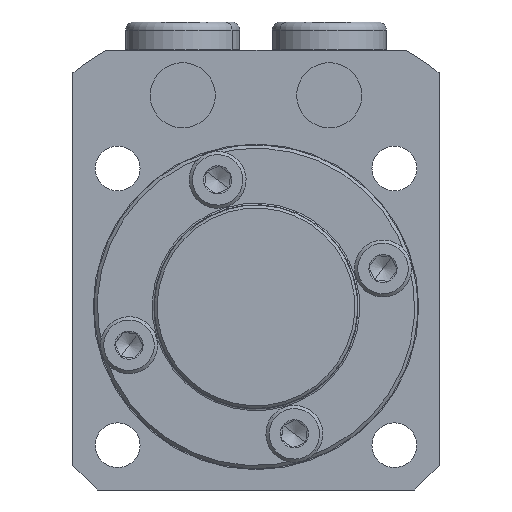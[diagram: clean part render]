
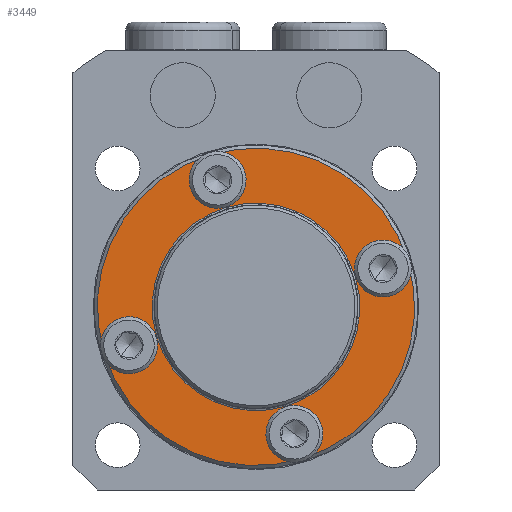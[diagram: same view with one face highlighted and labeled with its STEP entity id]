
A CAD part, front view. The second image highlights one B-rep face of the part: STEP entity #3449.
In plain terms, the highlighted planar face has unit normal (0, -1, 0).
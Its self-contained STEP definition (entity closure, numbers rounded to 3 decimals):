
#391 = FACE_BOUND ( 'NONE', #1669, .T. ) ;
#392 = FACE_BOUND ( 'NONE', #1678, .T. ) ;
#393 = FACE_BOUND ( 'NONE', #1676, .T. ) ;
#394 = FACE_OUTER_BOUND ( 'NONE', #1682, .T. ) ;
#396 = FACE_BOUND ( 'NONE', #1684, .T. ) ;
#397 = CARTESIAN_POINT ( 'NONE',  ( 0., -4., 0. ) ) ;
#398 = FACE_BOUND ( 'NONE', #1683, .T. ) ;
#400 = PLANE ( 'NONE',  #3685 ) ;
#401 = DIRECTION ( 'NONE',  ( 0., 1., 0. ) ) ;
#402 = DIRECTION ( 'NONE',  ( 0., 0., 1. ) ) ;
#897 = CIRCLE ( 'NONE', #899, 2.25 ) ;
#899 = AXIS2_PLACEMENT_3D ( 'NONE', #3015, #3016, #3017 ) ;
#903 = CIRCLE ( 'NONE', #905, 2.25 ) ;
#905 = AXIS2_PLACEMENT_3D ( 'NONE', #3027, #3028, #3029 ) ;
#909 = CIRCLE ( 'NONE', #911, 2.25 ) ;
#911 = AXIS2_PLACEMENT_3D ( 'NONE', #3037, #3038, #3039 ) ;
#917 = CIRCLE ( 'NONE', #923, 12.75 ) ;
#923 = AXIS2_PLACEMENT_3D ( 'NONE', #3057, #3058, #3059 ) ;
#924 = CIRCLE ( 'NONE', #929, 19.5 ) ;
#929 = AXIS2_PLACEMENT_3D ( 'NONE', #3070, #3071, #3072 ) ;
#1669 = EDGE_LOOP ( 'NONE', ( #4447, #4448 ) ) ;
#1676 = EDGE_LOOP ( 'NONE', ( #4449, #4450 ) ) ;
#1678 = EDGE_LOOP ( 'NONE', ( #4439, #4440 ) ) ;
#1682 = EDGE_LOOP ( 'NONE', ( #4441, #4442 ) ) ;
#1683 = EDGE_LOOP ( 'NONE', ( #4445, #4446 ) ) ;
#1684 = EDGE_LOOP ( 'NONE', ( #4443, #4444 ) ) ;
#1866 = CARTESIAN_POINT ( 'NONE',  ( 0., -4., 14.05 ) ) ;
#1879 = CARTESIAN_POINT ( 'NONE',  ( -16.3, -4., -2.25 ) ) ;
#1893 = CARTESIAN_POINT ( 'NONE',  ( 0., -4., -12.75 ) ) ;
#1916 = CARTESIAN_POINT ( 'NONE',  ( 0., -4., -19.5 ) ) ;
#1932 = CARTESIAN_POINT ( 'NONE',  ( 0., -4., 18.55 ) ) ;
#1973 = CARTESIAN_POINT ( 'NONE',  ( 0., -4., -18.55 ) ) ;
#1980 = CARTESIAN_POINT ( 'NONE',  ( -16.3, -4., 2.25 ) ) ;
#1984 = CARTESIAN_POINT ( 'NONE',  ( 0., -4., -14.05 ) ) ;
#1987 = CARTESIAN_POINT ( 'NONE',  ( 16.3, -4., -2.25 ) ) ;
#1988 = CARTESIAN_POINT ( 'NONE',  ( 16.3, -4., 2.25 ) ) ;
#2006 = CARTESIAN_POINT ( 'NONE',  ( 0., -4., 19.5 ) ) ;
#2014 = CARTESIAN_POINT ( 'NONE',  ( 0., -4., 12.75 ) ) ;
#2451 = EDGE_CURVE ( 'NONE', #4897, #4831, #2657, .T. ) ;
#2458 = EDGE_CURVE ( 'NONE', #4979, #4858, #2653, .T. ) ;
#2459 = EDGE_CURVE ( 'NONE', #4971, #4881, #2662, .T. ) ;
#2460 = EDGE_CURVE ( 'NONE', #4952, #4953, #2685, .T. ) ;
#2461 = EDGE_CURVE ( 'NONE', #4938, #4949, #2658, .T. ) ;
#2462 = EDGE_CURVE ( 'NONE', #4844, #4945, #2611, .T. ) ;
#2463 = EDGE_CURVE ( 'NONE', #4831, #4897, #2602, .T. ) ;
#2582 = AXIS2_PLACEMENT_3D ( 'NONE', #3905, #3906, #3907 ) ;
#2600 = AXIS2_PLACEMENT_3D ( 'NONE', #3896, #3897, #3898 ) ;
#2602 = CIRCLE ( 'NONE', #2582, 2.25 ) ;
#2604 = AXIS2_PLACEMENT_3D ( 'NONE', #3893, #3894, #3895 ) ;
#2611 = CIRCLE ( 'NONE', #2640, 2.25 ) ;
#2640 = AXIS2_PLACEMENT_3D ( 'NONE', #3902, #3903, #3904 ) ;
#2647 = AXIS2_PLACEMENT_3D ( 'NONE', #3890, #3891, #3892 ) ;
#2653 = CIRCLE ( 'NONE', #2647, 12.75 ) ;
#2657 = CIRCLE ( 'NONE', #2679, 2.25 ) ;
#2658 = CIRCLE ( 'NONE', #2659, 2.25 ) ;
#2659 = AXIS2_PLACEMENT_3D ( 'NONE', #3899, #3900, #3901 ) ;
#2662 = CIRCLE ( 'NONE', #2604, 19.5 ) ;
#2679 = AXIS2_PLACEMENT_3D ( 'NONE', #3872, #3873, #3874 ) ;
#2685 = CIRCLE ( 'NONE', #2600, 2.25 ) ;
#3015 = CARTESIAN_POINT ( 'NONE',  ( -16.3, -4., 0. ) ) ;
#3016 = DIRECTION ( 'NONE',  ( 0., -1., 0. ) ) ;
#3017 = DIRECTION ( 'NONE',  ( 1., 0., 0. ) ) ;
#3027 = CARTESIAN_POINT ( 'NONE',  ( 0., -4., -16.3 ) ) ;
#3028 = DIRECTION ( 'NONE',  ( 0., -1., 0. ) ) ;
#3029 = DIRECTION ( 'NONE',  ( 0., 0., 1. ) ) ;
#3037 = CARTESIAN_POINT ( 'NONE',  ( 16.3, -4., 0. ) ) ;
#3038 = DIRECTION ( 'NONE',  ( 0., -1., 0. ) ) ;
#3039 = DIRECTION ( 'NONE',  ( -1., 0., 0. ) ) ;
#3057 = CARTESIAN_POINT ( 'NONE',  ( 0., -4., 0. ) ) ;
#3058 = DIRECTION ( 'NONE',  ( 0., 1., 0. ) ) ;
#3059 = DIRECTION ( 'NONE',  ( 0., 0., 1. ) ) ;
#3070 = CARTESIAN_POINT ( 'NONE',  ( 0., -4., 0. ) ) ;
#3071 = DIRECTION ( 'NONE',  ( 0., -1., 0. ) ) ;
#3072 = DIRECTION ( 'NONE',  ( 0., 0., 1. ) ) ;
#3449 = ADVANCED_FACE ( 'NONE', ( #392, #394, #396, #398, #391, #393 ), #400, .F. ) ;
#3614 = EDGE_CURVE ( 'NONE', #4945, #4844, #897, .T. ) ;
#3618 = EDGE_CURVE ( 'NONE', #4949, #4938, #903, .T. ) ;
#3622 = EDGE_CURVE ( 'NONE', #4953, #4952, #909, .T. ) ;
#3629 = EDGE_CURVE ( 'NONE', #4858, #4979, #917, .T. ) ;
#3633 = EDGE_CURVE ( 'NONE', #4881, #4971, #924, .T. ) ;
#3685 = AXIS2_PLACEMENT_3D ( 'NONE', #397, #401, #402 ) ;
#3872 = CARTESIAN_POINT ( 'NONE',  ( 0., -4., 16.3 ) ) ;
#3873 = DIRECTION ( 'NONE',  ( 0., -1., 0. ) ) ;
#3874 = DIRECTION ( 'NONE',  ( 0., 0., -1. ) ) ;
#3890 = CARTESIAN_POINT ( 'NONE',  ( 0., -4., 0. ) ) ;
#3891 = DIRECTION ( 'NONE',  ( 0., 1., 0. ) ) ;
#3892 = DIRECTION ( 'NONE',  ( 0., 0., 1. ) ) ;
#3893 = CARTESIAN_POINT ( 'NONE',  ( 0., -4., 0. ) ) ;
#3894 = DIRECTION ( 'NONE',  ( 0., -1., 0. ) ) ;
#3895 = DIRECTION ( 'NONE',  ( 0., 0., 1. ) ) ;
#3896 = CARTESIAN_POINT ( 'NONE',  ( 16.3, -4., 0. ) ) ;
#3897 = DIRECTION ( 'NONE',  ( 0., -1., 0. ) ) ;
#3898 = DIRECTION ( 'NONE',  ( -1., 0., 0. ) ) ;
#3899 = CARTESIAN_POINT ( 'NONE',  ( 0., -4., -16.3 ) ) ;
#3900 = DIRECTION ( 'NONE',  ( 0., -1., 0. ) ) ;
#3901 = DIRECTION ( 'NONE',  ( 0., 0., 1. ) ) ;
#3902 = CARTESIAN_POINT ( 'NONE',  ( -16.3, -4., 0. ) ) ;
#3903 = DIRECTION ( 'NONE',  ( 0., -1., 0. ) ) ;
#3904 = DIRECTION ( 'NONE',  ( 1., 0., 0. ) ) ;
#3905 = CARTESIAN_POINT ( 'NONE',  ( 0., -4., 16.3 ) ) ;
#3906 = DIRECTION ( 'NONE',  ( 0., -1., 0. ) ) ;
#3907 = DIRECTION ( 'NONE',  ( 0., 0., -1. ) ) ;
#4439 = ORIENTED_EDGE ( 'NONE', *, *, #2458, .T. ) ;
#4440 = ORIENTED_EDGE ( 'NONE', *, *, #3629, .T. ) ;
#4441 = ORIENTED_EDGE ( 'NONE', *, *, #2459, .T. ) ;
#4442 = ORIENTED_EDGE ( 'NONE', *, *, #3633, .T. ) ;
#4443 = ORIENTED_EDGE ( 'NONE', *, *, #2460, .F. ) ;
#4444 = ORIENTED_EDGE ( 'NONE', *, *, #3622, .F. ) ;
#4445 = ORIENTED_EDGE ( 'NONE', *, *, #2461, .F. ) ;
#4446 = ORIENTED_EDGE ( 'NONE', *, *, #3618, .F. ) ;
#4447 = ORIENTED_EDGE ( 'NONE', *, *, #2462, .F. ) ;
#4448 = ORIENTED_EDGE ( 'NONE', *, *, #3614, .F. ) ;
#4449 = ORIENTED_EDGE ( 'NONE', *, *, #2463, .F. ) ;
#4450 = ORIENTED_EDGE ( 'NONE', *, *, #2451, .F. ) ;
#4831 = VERTEX_POINT ( 'NONE', #1866 ) ;
#4844 = VERTEX_POINT ( 'NONE', #1879 ) ;
#4858 = VERTEX_POINT ( 'NONE', #1893 ) ;
#4881 = VERTEX_POINT ( 'NONE', #1916 ) ;
#4897 = VERTEX_POINT ( 'NONE', #1932 ) ;
#4938 = VERTEX_POINT ( 'NONE', #1973 ) ;
#4945 = VERTEX_POINT ( 'NONE', #1980 ) ;
#4949 = VERTEX_POINT ( 'NONE', #1984 ) ;
#4952 = VERTEX_POINT ( 'NONE', #1987 ) ;
#4953 = VERTEX_POINT ( 'NONE', #1988 ) ;
#4971 = VERTEX_POINT ( 'NONE', #2006 ) ;
#4979 = VERTEX_POINT ( 'NONE', #2014 ) ;
